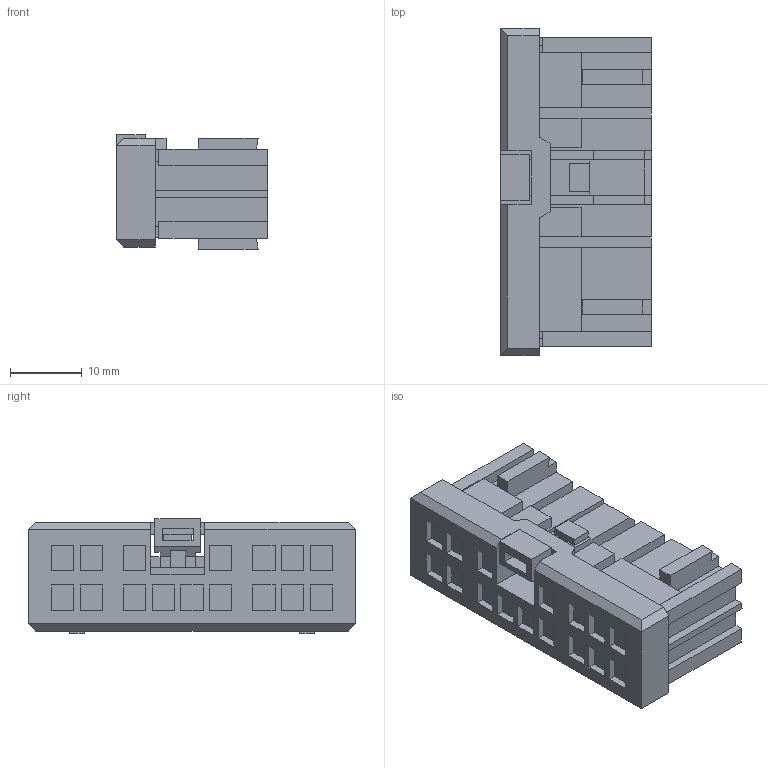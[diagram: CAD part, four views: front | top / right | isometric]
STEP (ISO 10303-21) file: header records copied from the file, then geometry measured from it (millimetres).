
FILE_DESCRIPTION(('CATIA V5 STEP Exchange'),'2;1');
FILE_NAME('N:\C-DAM_MyDesk\ENV\900093\6098-0255.stp','2013-04-03T07:10:39+00:00',('none'),('none'),'CATIA Version 5 Release 20 SP 4 (IN-10)','CATIA V5 STEP AP203','none');
FILE_SCHEMA(('CONFIG_CONTROL_DESIGN'));
Length unit declared in the file: millimetre
Products named in the file (1): 6098-0255
Bounding box: 21 x 45.5 x 15.9 mm (x, y, z)
Volume: 9578.7 mm3; surface area: 5773.2 mm2
Topology: 1 solids, 1 shells, 324 faces, 875 edges, 582 vertices
Faces by surface type: plane 324
Entity records: 9087 total; most frequent: ORIENTED_EDGE 1750, CARTESIAN_POINT 1600, DIRECTION 1159, VECTOR 875, EDGE_CURVE 875, LINE 875, VERTEX_POINT 582, EDGE_LOOP 357
